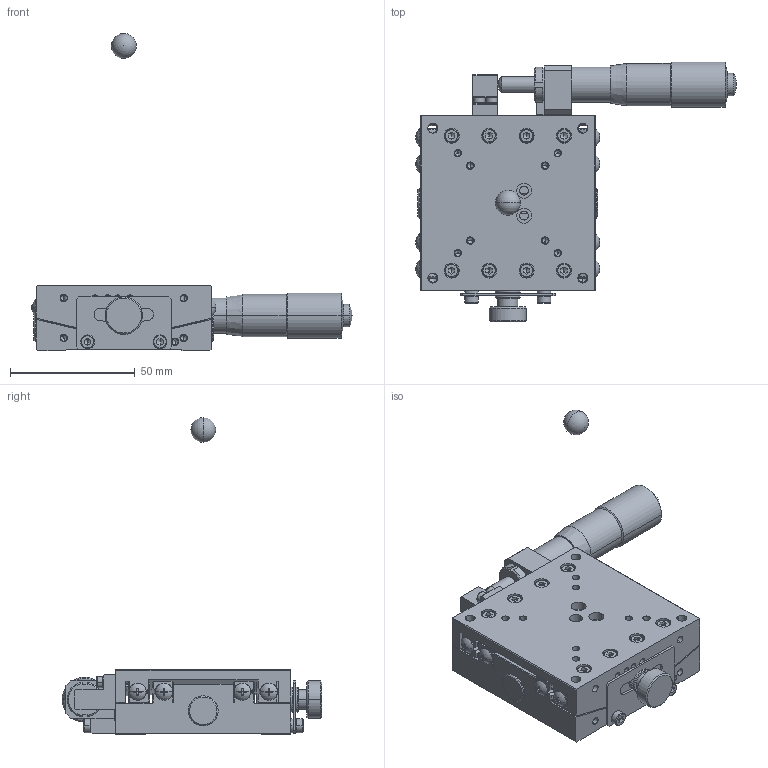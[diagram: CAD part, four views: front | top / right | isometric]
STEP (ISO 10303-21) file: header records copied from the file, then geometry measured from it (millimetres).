
FILE_DESCRIPTION (( 'STEP AP214' ), '1' );
FILE_NAME ('ST07A-S1M-R.STEP', '2007-01-19T01:36:48', ( ' ' ), ( ' ' ), 'SwSTEP 2.0', 'SolidWorks 2006052', '' );
FILE_SCHEMA (( 'AUTOMOTIVE_DESIGN' ));
Length unit declared in the file: millimetre
Products named in the file (5): 002600-1020(3D)-1; ST07A-S1M-R-Part-1; MICROMETERHEAD(MHN4-25T)spindle-3; ST07A-S1M-R; 002600-1011(3D)-1
Assembly tree (4 placements, depth 2):
  ST07A-S1M-R
    002600-1011(3D)-1
    002600-1020(3D)-1
    ST07A-S1M-R-Part-1
    MICROMETERHEAD(MHN4-25T)spindle-3
Bounding box: 128.39 x 104 x 127 mm (x, y, z)
Volume: 127095.4 mm3; surface area: 60747.6 mm2
Topology: 4 solids, 35 shells, 1761 faces, 4122 edges, 2415 vertices
Faces by surface type: plane 720, cylinder 574, cone 437, sphere 22, torus 8
Entity records: 53043 total; most frequent: CARTESIAN_POINT 12708, DIRECTION 8791, ORIENTED_EDGE 8014, EDGE_CURVE 4007, AXIS2_PLACEMENT_3D 3389, VERTEX_POINT 2412, LINE 2013, VECTOR 2013
